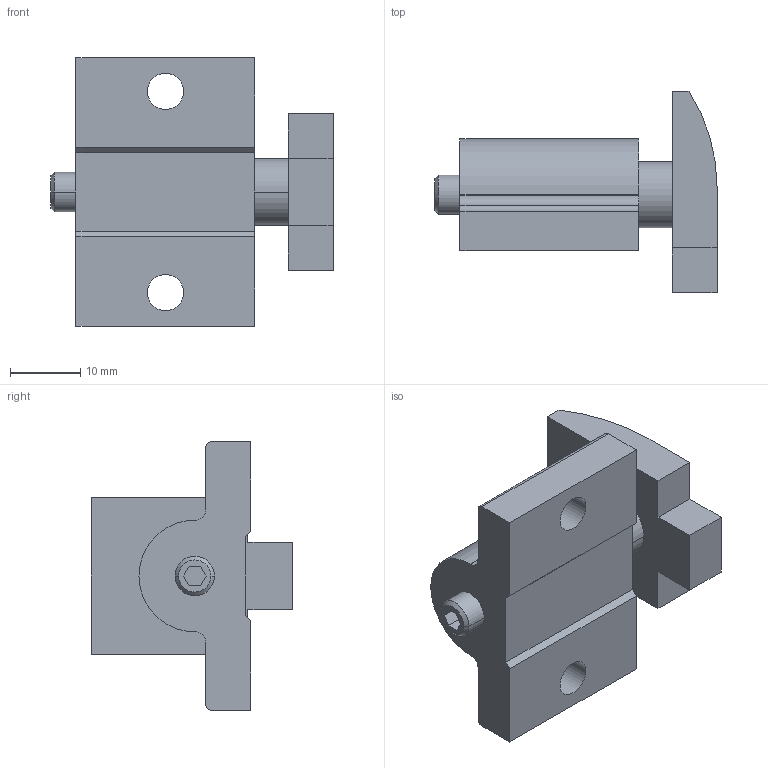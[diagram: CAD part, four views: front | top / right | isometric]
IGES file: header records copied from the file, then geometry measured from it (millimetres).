
Start section:  PTC IGES file: ss90a-3d.igs
Global section: file name: ss90a-3d.igs; native system: Pro/ENGINEER by Parametric Technology Corporation; preprocessor: 2002350; author: chant; organization: Unknown; date: 061026.134250; units: inch
Bounding box: 40.06 x 28.57 x 38.1 mm (x, y, z)
Surface area: 6152.1 mm2 (no closed solid volume)
Topology: 0 solids, 0 shells, 58 faces, 413 edges, 524 vertices
Faces by surface type: bspline 34, revolution 24
